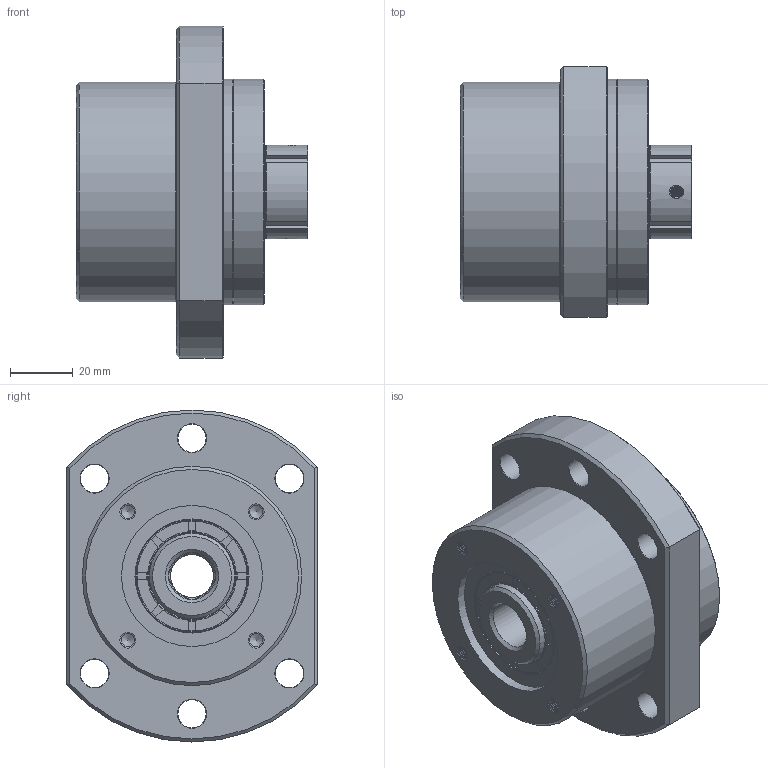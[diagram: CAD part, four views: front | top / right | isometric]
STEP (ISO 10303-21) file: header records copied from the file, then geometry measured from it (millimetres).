
FILE_DESCRIPTION(('STEP AP214'),'1');
FILE_NAME('WBK15DF (2).stp','2016-10-05T11:26:40',(' '),(' '),'Spatial InterOp 3D',' ',' ');
FILE_SCHEMA(('automotive_design'));
Length unit declared in the file: millimetre
Products named in the file (3): Assembly3; WBK15DF; WBK15DF_1
Assembly tree (2 placements, depth 2):
  Assembly3
    WBK15DF
    WBK15DF_1
Bounding box: 74 x 80 x 106 mm (x, y, z)
Volume: 244469.4 mm3; surface area: 62495.2 mm2
Topology: 2 solids, 25 shells, 1047 faces, 2456 edges, 1457 vertices
Faces by surface type: cone 579, plane 231, cylinder 99, torus 82, sphere 56
Full cylindrical faces by diameter (mm): 3.2 x2, 4.2 x8, 5 x6, 6 x6, 6.6 x6, 9 x6, 10 x6, 11 x6, 14 x6, 15 x4, 15.6 x1, 24 x1, 27.2 x6, 28.4 x2, 29.6 x2, 34 x6, 35.2 x2, 36.4 x3, 39.7 x1, 45 x2, 46.4 x1, 47 x4, 69.4 x1, 70 x1, 72 x2
Entity records: 44345 total; most frequent: CARTESIAN_POINT 7619, DIRECTION 4216, ORIENTED_EDGE 3322, STYLED_ITEM 2680, PRESENTATION_STYLE_ASSIGNMENT 2680, COLOUR_RGB 2680, AXIS2_PLACEMENT_3D 1924, EDGE_LOOP 1790
